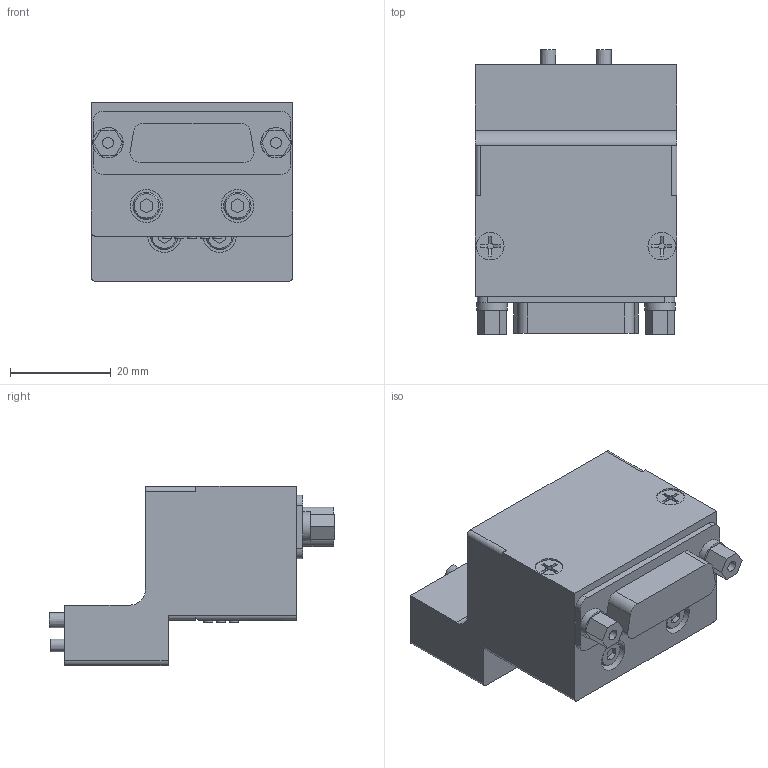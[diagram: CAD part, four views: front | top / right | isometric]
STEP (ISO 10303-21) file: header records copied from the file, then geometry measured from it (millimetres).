
FILE_DESCRIPTION(('STEP AP214'),'1');
FILE_NAME('KHG-12RS-D315C_ver1.stp','2026-05-18T00:15:17',(' '),(' '),'Spatial InterOp 3D',' ',' ');
FILE_SCHEMA(('AUTOMOTIVE_DESIGN { 1 0 10303 214 1 1 1 1 }'));
Length unit declared in the file: millimetre
Products named in the file (1): KHG-12RS-D315C_ver1
Bounding box: 40 x 56.5 x 35.5 mm (x, y, z)
Volume: 42381.4 mm3; surface area: 12174.7 mm2
Topology: 1 solids, 11 shells, 344 faces, 726 edges, 479 vertices
Faces by surface type: plane 226, cylinder 106, cone 12
Full cylindrical faces by diameter (mm): 1.02 x15, 1.8 x15, 2 x17, 2.15 x6, 2.5 x4, 3 x6, 3.05 x2, 3.2 x2, 3.5 x4, 5.41 x4, 5.5 x2, 6 x2, 6.5 x4
Entity records: 11310 total; most frequent: DIRECTION 1530, CARTESIAN_POINT 1441, ORIENTED_EDGE 1208, EDGE_CURVE 604, AXIS2_PLACEMENT_3D 583, EDGE_LOOP 522, VERTEX_POINT 452, FACE_OUTER_BOUND 427
